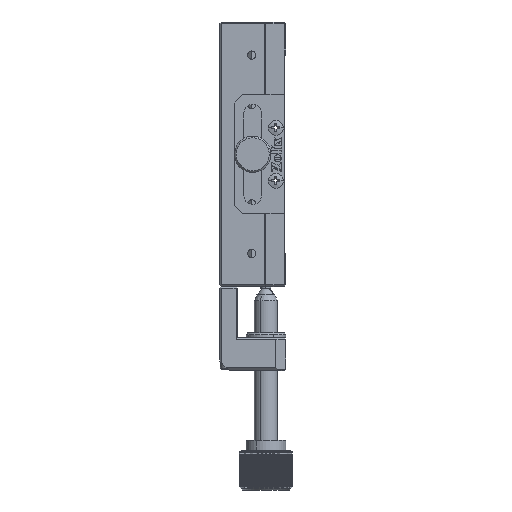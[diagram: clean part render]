
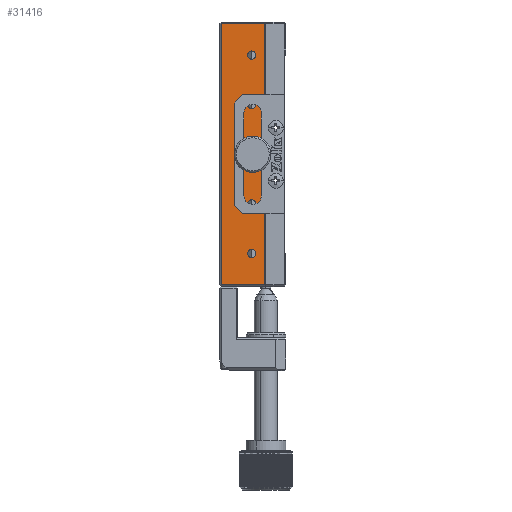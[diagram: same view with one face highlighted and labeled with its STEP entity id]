
A CAD part, left-side view. The second image highlights one B-rep face of the part: STEP entity #31416.
In plain terms, the highlighted planar face has unit normal (-1, 0, 0).
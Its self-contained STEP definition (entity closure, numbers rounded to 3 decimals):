
#137 = AXIS2_PLACEMENT_3D ( 'NONE', #21330, #8780, #39427 ) ;
#440 = FACE_BOUND ( 'NONE', #18046, .T. ) ;
#449 = CARTESIAN_POINT ( 'NONE',  ( -37.083, -7.274, 122.5 ) ) ;
#691 = VERTEX_POINT ( 'NONE', #20413 ) ;
#765 = DIRECTION ( 'NONE',  ( -1., 0., 0. ) ) ;
#848 = CARTESIAN_POINT ( 'NONE',  ( -37.083, -7.274, 123.75 ) ) ;
#1441 = ORIENTED_EDGE ( 'NONE', *, *, #21172, .F. ) ;
#1495 = CARTESIAN_POINT ( 'NONE',  ( -37.083, -11.274, 53. ) ) ;
#2235 = DIRECTION ( 'NONE',  ( -1., 0., 0. ) ) ;
#2332 = CIRCLE ( 'NONE', #32712, 1.25 ) ;
#2625 = CARTESIAN_POINT ( 'NONE',  ( -37.083, 1.926, 52.5 ) ) ;
#2719 = CIRCLE ( 'NONE', #20309, 1.25 ) ;
#2899 = VERTEX_POINT ( 'NONE', #31194 ) ;
#3378 = EDGE_CURVE ( 'NONE', #691, #20339, #37232, .T. ) ;
#3738 = DIRECTION ( 'NONE',  ( -1., 0., 0. ) ) ;
#4057 = VECTOR ( 'NONE', #31710, 1000. ) ;
#4250 = DIRECTION ( 'NONE',  ( 0., 0., 1. ) ) ;
#4264 = DIRECTION ( 'NONE',  ( -1., 0., 0. ) ) ;
#4272 = VECTOR ( 'NONE', #16429, 1000. ) ;
#4400 = CARTESIAN_POINT ( 'NONE',  ( -37.083, -7.274, 107.5 ) ) ;
#4532 = CARTESIAN_POINT ( 'NONE',  ( -37.083, -11.274, 132. ) ) ;
#4777 = DIRECTION ( 'NONE',  ( 0., 0., 1. ) ) ;
#5237 = VECTOR ( 'NONE', #23951, 1000. ) ;
#5580 = ORIENTED_EDGE ( 'NONE', *, *, #26527, .F. ) ;
#5787 = AXIS2_PLACEMENT_3D ( 'NONE', #29326, #29466, #4777 ) ;
#6183 = CARTESIAN_POINT ( 'NONE',  ( -37.083, -11.274, 52.5 ) ) ;
#6586 = EDGE_LOOP ( 'NONE', ( #1441, #25456 ) ) ;
#6893 = DIRECTION ( 'NONE',  ( 0., 0., 1. ) ) ;
#7125 = LINE ( 'NONE', #6183, #37335 ) ;
#7189 = EDGE_LOOP ( 'NONE', ( #28715, #11442 ) ) ;
#7453 = EDGE_LOOP ( 'NONE', ( #10432, #18726, #21938, #23467 ) ) ;
#7565 = EDGE_CURVE ( 'NONE', #37875, #27322, #9614, .T. ) ;
#7770 = ORIENTED_EDGE ( 'NONE', *, *, #15141, .F. ) ;
#7938 = LINE ( 'NONE', #22469, #4057 ) ;
#8006 = EDGE_CURVE ( 'NONE', #31114, #35087, #2719, .T. ) ;
#8593 = DIRECTION ( 'NONE',  ( 0., 0., 1. ) ) ;
#8771 = CIRCLE ( 'NONE', #26693, 1.25 ) ;
#8780 = DIRECTION ( 'NONE',  ( -1., 0., 0. ) ) ;
#9235 = FACE_BOUND ( 'NONE', #26453, .T. ) ;
#9382 = ORIENTED_EDGE ( 'NONE', *, *, #3378, .F. ) ;
#9614 = LINE ( 'NONE', #10141, #4272 ) ;
#10141 = CARTESIAN_POINT ( 'NONE',  ( -37.083, -11.274, 132. ) ) ;
#10217 = DIRECTION ( 'NONE',  ( 0., 0., 1. ) ) ;
#10432 = ORIENTED_EDGE ( 'NONE', *, *, #26119, .T. ) ;
#11106 = EDGE_CURVE ( 'NONE', #40229, #19274, #29692, .T. ) ;
#11195 = VERTEX_POINT ( 'NONE', #1495 ) ;
#11442 = ORIENTED_EDGE ( 'NONE', *, *, #21635, .F. ) ;
#12092 = CARTESIAN_POINT ( 'NONE',  ( -37.083, -7.274, 76.25 ) ) ;
#12132 = CARTESIAN_POINT ( 'NONE',  ( -37.083, -7.274, 122.5 ) ) ;
#12189 = DIRECTION ( 'NONE',  ( 0., 0., 1. ) ) ;
#12382 = CIRCLE ( 'NONE', #39785, 1.25 ) ;
#12862 = EDGE_CURVE ( 'NONE', #11195, #37875, #7125, .T. ) ;
#12884 = CARTESIAN_POINT ( 'NONE',  ( -37.083, 1.926, 132. ) ) ;
#14171 = FACE_BOUND ( 'NONE', #6586, .T. ) ;
#14357 = CARTESIAN_POINT ( 'NONE',  ( -37.083, -7.274, 62.5 ) ) ;
#15141 = EDGE_CURVE ( 'NONE', #39781, #37759, #12382, .T. ) ;
#16429 = DIRECTION ( 'NONE',  ( 0., 1., 0. ) ) ;
#17683 = AXIS2_PLACEMENT_3D ( 'NONE', #4400, #4264, #19952 ) ;
#18046 = EDGE_LOOP ( 'NONE', ( #7770, #27424 ) ) ;
#18519 = FACE_OUTER_BOUND ( 'NONE', #7453, .T. ) ;
#18586 = CARTESIAN_POINT ( 'NONE',  ( -37.083, -7.274, 121.25 ) ) ;
#18678 = AXIS2_PLACEMENT_3D ( 'NONE', #12132, #39929, #8593 ) ;
#18726 = ORIENTED_EDGE ( 'NONE', *, *, #29150, .T. ) ;
#19061 = DIRECTION ( 'NONE',  ( 0., 0., 1. ) ) ;
#19274 = VERTEX_POINT ( 'NONE', #21995 ) ;
#19661 = DIRECTION ( 'NONE',  ( -1., 0., 0. ) ) ;
#19952 = DIRECTION ( 'NONE',  ( 0., 0., 1. ) ) ;
#20197 = PLANE ( 'NONE',  #5787 ) ;
#20227 = DIRECTION ( 'NONE',  ( 0., 0., 1. ) ) ;
#20309 = AXIS2_PLACEMENT_3D ( 'NONE', #24933, #28200, #19061 ) ;
#20339 = VERTEX_POINT ( 'NONE', #37753 ) ;
#20413 = CARTESIAN_POINT ( 'NONE',  ( -37.083, -7.574, 90.4 ) ) ;
#21172 = EDGE_CURVE ( 'NONE', #19274, #40229, #36578, .T. ) ;
#21330 = CARTESIAN_POINT ( 'NONE',  ( -37.083, -7.574, 92.5 ) ) ;
#21344 = DIRECTION ( 'NONE',  ( 0., 0., 1. ) ) ;
#21635 = EDGE_CURVE ( 'NONE', #22010, #36781, #8771, .T. ) ;
#21938 = ORIENTED_EDGE ( 'NONE', *, *, #12862, .T. ) ;
#21995 = CARTESIAN_POINT ( 'NONE',  ( -37.083, -7.274, 63.75 ) ) ;
#22010 = VERTEX_POINT ( 'NONE', #12092 ) ;
#22395 = EDGE_CURVE ( 'NONE', #36781, #22010, #2332, .T. ) ;
#22469 = CARTESIAN_POINT ( 'NONE',  ( -37.083, -11.274, 53. ) ) ;
#23467 = ORIENTED_EDGE ( 'NONE', *, *, #7565, .T. ) ;
#23951 = DIRECTION ( 'NONE',  ( 0., 0., -1. ) ) ;
#24036 = EDGE_LOOP ( 'NONE', ( #38121, #9382 ) ) ;
#24933 = CARTESIAN_POINT ( 'NONE',  ( -37.083, -7.274, 107.5 ) ) ;
#25456 = ORIENTED_EDGE ( 'NONE', *, *, #11106, .F. ) ;
#26115 = EDGE_CURVE ( 'NONE', #20339, #691, #27200, .T. ) ;
#26119 = EDGE_CURVE ( 'NONE', #27322, #2899, #31103, .T. ) ;
#26453 = EDGE_LOOP ( 'NONE', ( #28512, #5580 ) ) ;
#26527 = EDGE_CURVE ( 'NONE', #35087, #31114, #39312, .T. ) ;
#26693 = AXIS2_PLACEMENT_3D ( 'NONE', #28898, #765, #10217 ) ;
#26815 = FACE_BOUND ( 'NONE', #24036, .T. ) ;
#26903 = AXIS2_PLACEMENT_3D ( 'NONE', #39993, #2235, #21344 ) ;
#27200 = CIRCLE ( 'NONE', #137, 2.1 ) ;
#27285 = DIRECTION ( 'NONE',  ( 0., 0., 1. ) ) ;
#27322 = VERTEX_POINT ( 'NONE', #12884 ) ;
#27326 = FACE_BOUND ( 'NONE', #7189, .T. ) ;
#27424 = ORIENTED_EDGE ( 'NONE', *, *, #39062, .F. ) ;
#27469 = CARTESIAN_POINT ( 'NONE',  ( -37.083, -7.274, 108.75 ) ) ;
#28200 = DIRECTION ( 'NONE',  ( -1., 0., 0. ) ) ;
#28512 = ORIENTED_EDGE ( 'NONE', *, *, #8006, .F. ) ;
#28715 = ORIENTED_EDGE ( 'NONE', *, *, #22395, .F. ) ;
#28898 = CARTESIAN_POINT ( 'NONE',  ( -37.083, -7.274, 77.5 ) ) ;
#29150 = EDGE_CURVE ( 'NONE', #2899, #11195, #7938, .T. ) ;
#29326 = CARTESIAN_POINT ( 'NONE',  ( -37.083, -11.274, 52.5 ) ) ;
#29466 = DIRECTION ( 'NONE',  ( -1., 0., 0. ) ) ;
#29692 = CIRCLE ( 'NONE', #39134, 1.25 ) ;
#31103 = LINE ( 'NONE', #2625, #5237 ) ;
#31114 = VERTEX_POINT ( 'NONE', #27469 ) ;
#31194 = CARTESIAN_POINT ( 'NONE',  ( -37.083, 1.926, 53. ) ) ;
#31416 = ADVANCED_FACE ( 'NONE', ( #27326, #14171, #440, #9235, #26815, #18519 ), #20197, .T. ) ;
#31700 = CIRCLE ( 'NONE', #18678, 1.25 ) ;
#31710 = DIRECTION ( 'NONE',  ( 0., -1., 0. ) ) ;
#32295 = CARTESIAN_POINT ( 'NONE',  ( -37.083, -7.274, 78.75 ) ) ;
#32712 = AXIS2_PLACEMENT_3D ( 'NONE', #39926, #33533, #27285 ) ;
#33533 = DIRECTION ( 'NONE',  ( -1., 0., 0. ) ) ;
#33722 = AXIS2_PLACEMENT_3D ( 'NONE', #14357, #35766, #20227 ) ;
#35068 = CARTESIAN_POINT ( 'NONE',  ( -37.083, -7.274, 62.5 ) ) ;
#35087 = VERTEX_POINT ( 'NONE', #37846 ) ;
#35766 = DIRECTION ( 'NONE',  ( -1., 0., 0. ) ) ;
#36578 = CIRCLE ( 'NONE', #33722, 1.25 ) ;
#36781 = VERTEX_POINT ( 'NONE', #32295 ) ;
#37232 = CIRCLE ( 'NONE', #26903, 2.1 ) ;
#37335 = VECTOR ( 'NONE', #12189, 1000. ) ;
#37753 = CARTESIAN_POINT ( 'NONE',  ( -37.083, -7.574, 94.6 ) ) ;
#37759 = VERTEX_POINT ( 'NONE', #18586 ) ;
#37846 = CARTESIAN_POINT ( 'NONE',  ( -37.083, -7.274, 106.25 ) ) ;
#37875 = VERTEX_POINT ( 'NONE', #4532 ) ;
#38121 = ORIENTED_EDGE ( 'NONE', *, *, #26115, .F. ) ;
#39062 = EDGE_CURVE ( 'NONE', #37759, #39781, #31700, .T. ) ;
#39134 = AXIS2_PLACEMENT_3D ( 'NONE', #35068, #19661, #4250 ) ;
#39312 = CIRCLE ( 'NONE', #17683, 1.25 ) ;
#39427 = DIRECTION ( 'NONE',  ( 0., 0., 1. ) ) ;
#39781 = VERTEX_POINT ( 'NONE', #848 ) ;
#39785 = AXIS2_PLACEMENT_3D ( 'NONE', #449, #3738, #6893 ) ;
#39926 = CARTESIAN_POINT ( 'NONE',  ( -37.083, -7.274, 77.5 ) ) ;
#39929 = DIRECTION ( 'NONE',  ( -1., 0., 0. ) ) ;
#39993 = CARTESIAN_POINT ( 'NONE',  ( -37.083, -7.574, 92.5 ) ) ;
#40229 = VERTEX_POINT ( 'NONE', #40515 ) ;
#40515 = CARTESIAN_POINT ( 'NONE',  ( -37.083, -7.274, 61.25 ) ) ;
